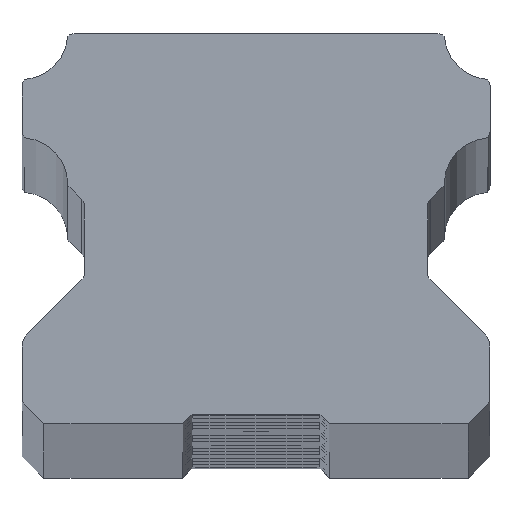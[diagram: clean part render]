
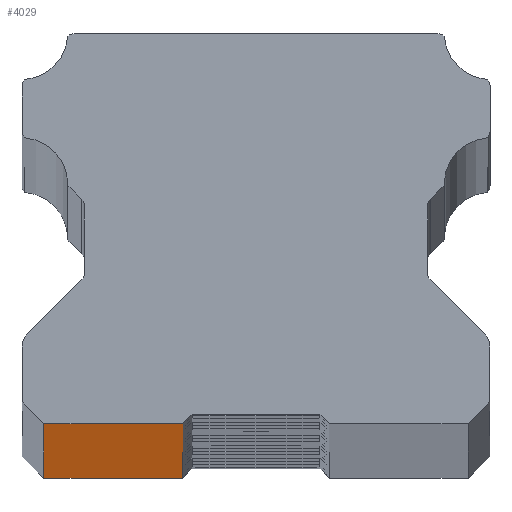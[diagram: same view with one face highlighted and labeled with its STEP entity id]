
A CAD part, top view. The second image highlights one B-rep face of the part: STEP entity #4029.
In plain terms, the highlighted planar face has unit normal (0, -1, 0).
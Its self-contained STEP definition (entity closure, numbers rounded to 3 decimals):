
#104 = EDGE_CURVE ( 'NONE', #781, #1062, #1117, .T. ) ;
#299 = VECTOR ( 'NONE', #664, 1000. ) ;
#303 = DIRECTION ( 'NONE',  ( 0., 0., 1. ) ) ;
#436 = LINE ( 'NONE', #2222, #3485 ) ;
#440 = EDGE_CURVE ( 'NONE', #887, #4245, #689, .T. ) ;
#664 = DIRECTION ( 'NONE',  ( 1., 0., 0. ) ) ;
#689 = LINE ( 'NONE', #2942, #299 ) ;
#732 = DIRECTION ( 'NONE',  ( 0., 0., -1. ) ) ;
#781 = VERTEX_POINT ( 'NONE', #1217 ) ;
#787 = ORIENTED_EDGE ( 'NONE', *, *, #104, .T. ) ;
#887 = VERTEX_POINT ( 'NONE', #1429 ) ;
#906 = CARTESIAN_POINT ( 'NONE',  ( -2.085, -5.946, 1000. ) ) ;
#1062 = VERTEX_POINT ( 'NONE', #2116 ) ;
#1117 = LINE ( 'NONE', #3418, #2596 ) ;
#1217 = CARTESIAN_POINT ( 'NONE',  ( -6.535, -5.946, 0. ) ) ;
#1429 = CARTESIAN_POINT ( 'NONE',  ( -6.535, -5.946, 1000. ) ) ;
#1487 = EDGE_CURVE ( 'NONE', #4245, #1062, #3584, .T. ) ;
#1639 = AXIS2_PLACEMENT_3D ( 'NONE', #3684, #2612, #303 ) ;
#2116 = CARTESIAN_POINT ( 'NONE',  ( -2.085, -5.946, 0. ) ) ;
#2220 = VECTOR ( 'NONE', #3606, 1000. ) ;
#2222 = CARTESIAN_POINT ( 'NONE',  ( -6.535, -5.946, 1000. ) ) ;
#2596 = VECTOR ( 'NONE', #2661, 1000. ) ;
#2612 = DIRECTION ( 'NONE',  ( 0., 1., 0. ) ) ;
#2661 = DIRECTION ( 'NONE',  ( 1., 0., 0. ) ) ;
#2942 = CARTESIAN_POINT ( 'NONE',  ( -6.535, -5.946, 1000. ) ) ;
#3230 = ORIENTED_EDGE ( 'NONE', *, *, #4770, .T. ) ;
#3290 = ORIENTED_EDGE ( 'NONE', *, *, #440, .F. ) ;
#3418 = CARTESIAN_POINT ( 'NONE',  ( -6.535, -5.946, 0. ) ) ;
#3485 = VECTOR ( 'NONE', #732, 1000. ) ;
#3584 = LINE ( 'NONE', #4243, #2220 ) ;
#3606 = DIRECTION ( 'NONE',  ( 0., 0., -1. ) ) ;
#3684 = CARTESIAN_POINT ( 'NONE',  ( -6.535, -5.946, 1000. ) ) ;
#3717 = ORIENTED_EDGE ( 'NONE', *, *, #1487, .F. ) ;
#3759 = PLANE ( 'NONE',  #1639 ) ;
#4029 = ADVANCED_FACE ( 'NONE', ( #4473 ), #3759, .F. ) ;
#4243 = CARTESIAN_POINT ( 'NONE',  ( -2.085, -5.946, 1000. ) ) ;
#4245 = VERTEX_POINT ( 'NONE', #906 ) ;
#4473 = FACE_OUTER_BOUND ( 'NONE', #4660, .T. ) ;
#4660 = EDGE_LOOP ( 'NONE', ( #787, #3717, #3290, #3230 ) ) ;
#4770 = EDGE_CURVE ( 'NONE', #887, #781, #436, .T. ) ;
